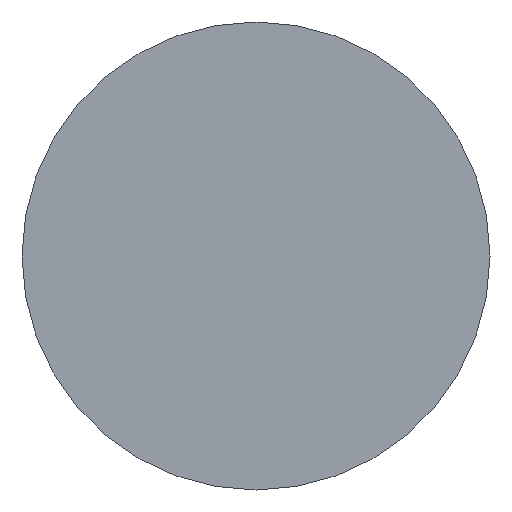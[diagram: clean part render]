
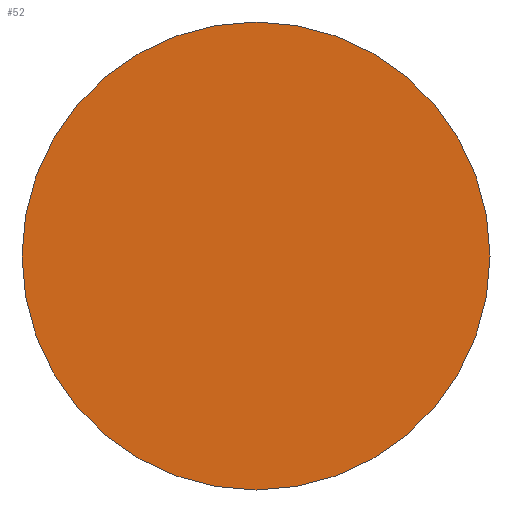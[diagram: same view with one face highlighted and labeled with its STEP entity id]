
A CAD part, left-side view. The second image highlights one B-rep face of the part: STEP entity #52.
In plain terms, the highlighted planar face has unit normal (-1, 0, 0).
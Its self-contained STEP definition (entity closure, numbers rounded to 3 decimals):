
#52 = ADVANCED_FACE ( 'NONE', ( #735 ), #1128, .F. ) ;
#168 = ORIENTED_EDGE ( 'NONE', *, *, #1545, .T. ) ;
#397 = CARTESIAN_POINT ( 'NONE',  ( 0., 0., -29. ) ) ;
#592 = CARTESIAN_POINT ( 'NONE',  ( 0., 0., 29. ) ) ;
#735 = FACE_OUTER_BOUND ( 'NONE', #1821, .T. ) ;
#753 = DIRECTION ( 'NONE',  ( -1., 0., 0. ) ) ;
#798 = DIRECTION ( 'NONE',  ( 0., 0., -1. ) ) ;
#813 = DIRECTION ( 'NONE',  ( 0., 0., -1. ) ) ;
#1064 = DIRECTION ( 'NONE',  ( -1., 0., 0. ) ) ;
#1128 = PLANE ( 'NONE',  #1390 ) ;
#1138 = CARTESIAN_POINT ( 'NONE',  ( 0., 0., 0. ) ) ;
#1163 = DIRECTION ( 'NONE',  ( 1., 0., 0. ) ) ;
#1209 = CARTESIAN_POINT ( 'NONE',  ( 0., -29.348, 29.348 ) ) ;
#1233 = DIRECTION ( 'NONE',  ( 0., 0., -1. ) ) ;
#1249 = CARTESIAN_POINT ( 'NONE',  ( 0., 0., 0. ) ) ;
#1390 = AXIS2_PLACEMENT_3D ( 'NONE', #1209, #1163, #813 ) ;
#1441 = AXIS2_PLACEMENT_3D ( 'NONE', #1249, #1064, #798 ) ;
#1455 = AXIS2_PLACEMENT_3D ( 'NONE', #1138, #753, #1233 ) ;
#1504 = CIRCLE ( 'NONE', #1441, 29. ) ;
#1545 = EDGE_CURVE ( 'NONE', #1890, #2222, #1631, .T. ) ;
#1556 = EDGE_CURVE ( 'NONE', #2222, #1890, #1504, .T. ) ;
#1631 = CIRCLE ( 'NONE', #1455, 29. ) ;
#1821 = EDGE_LOOP ( 'NONE', ( #168, #1969 ) ) ;
#1890 = VERTEX_POINT ( 'NONE', #397 ) ;
#1969 = ORIENTED_EDGE ( 'NONE', *, *, #1556, .T. ) ;
#2222 = VERTEX_POINT ( 'NONE', #592 ) ;
